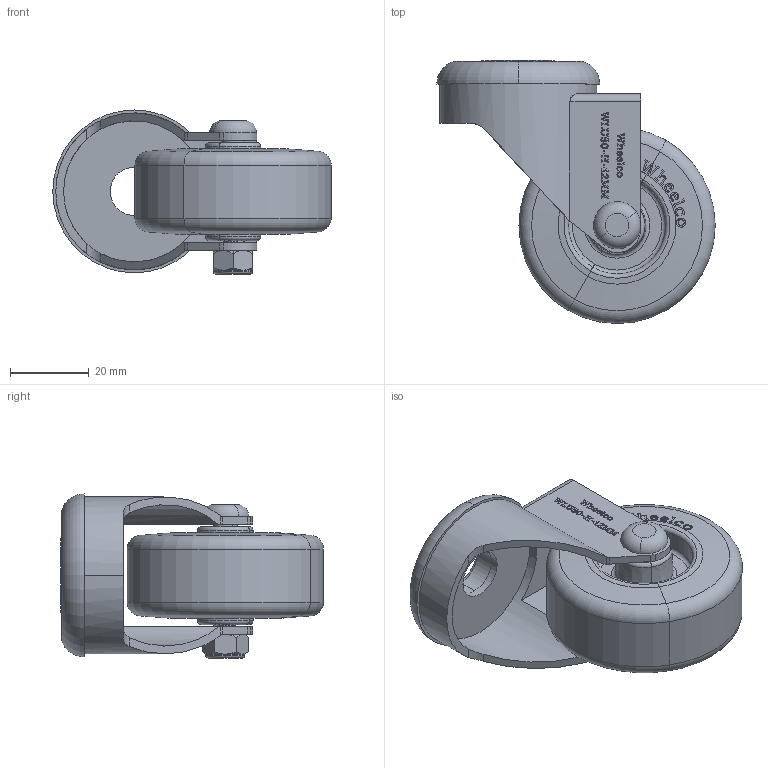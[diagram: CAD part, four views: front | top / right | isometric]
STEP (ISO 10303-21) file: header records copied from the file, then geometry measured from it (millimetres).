
FILE_DESCRIPTION (( 'STEP AP214' ), '1' );
FILE_NAME ('WLU50-H-12MM.step', '2024-01-15T01:50:48', ( '' ), ( '' ), 'SwSTEP 2.0', 'SolidWorks 2022', '' );
FILE_SCHEMA (( 'AUTOMOTIVE_DESIGN' ));
Length unit declared in the file: millimetre
Products named in the file (6): WLU50; WL50-H-12MM; WLU50-H-12MM; WL bolt 40mm-6mm dia; M6NYLOC-WHITE; 41.5 CAP-12
Assembly tree (5 placements, depth 2):
  WLU50-H-12MM
    WL50-H-12MM
    41.5 CAP-12
    M6NYLOC-WHITE
    WL bolt 40mm-6mm dia
    WLU50
Bounding box: 70.92 x 67 x 41.8 mm (x, y, z)
Volume: 51875.3 mm3; surface area: 22545.4 mm2
Topology: 5 solids, 5 shells, 790 faces, 2125 edges, 1388 vertices
Faces by surface type: plane 435, bspline 205, cylinder 80, torus 36, cone 32, sphere 2
Entity records: 38218 total; most frequent: CARTESIAN_POINT 19547, ORIENTED_EDGE 4246, DIRECTION 2861, EDGE_CURVE 2123, VERTEX_POINT 1388, LINE 1301, VECTOR 1301, EDGE_LOOP 847
